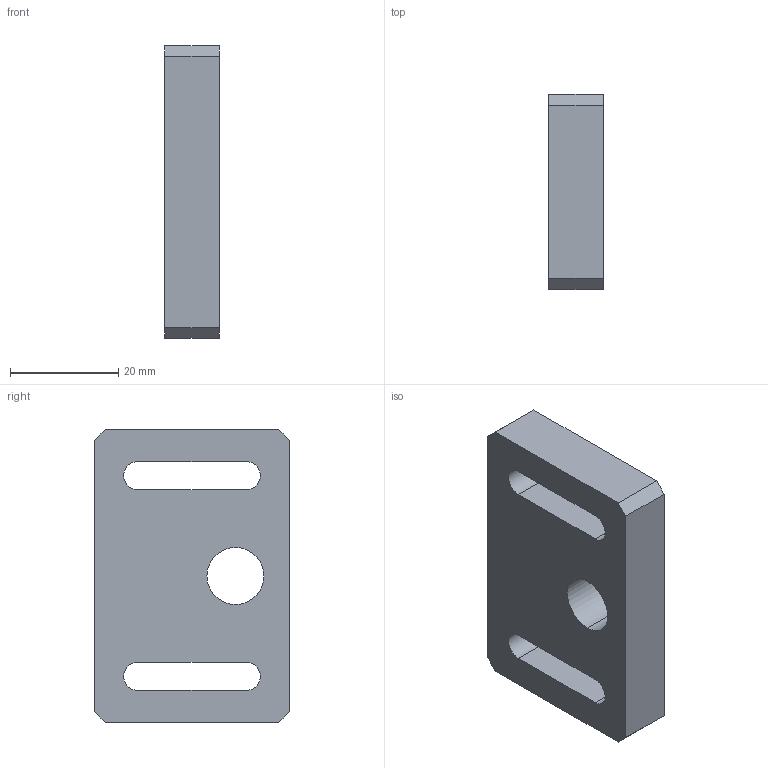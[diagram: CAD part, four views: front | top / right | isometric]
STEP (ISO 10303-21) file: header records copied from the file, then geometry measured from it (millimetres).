
FILE_DESCRIPTION (( 'STEP AP214' ), '1' );
FILE_NAME ('AGZ061.04.02_V1惰轮调节板.STEP', '2021-09-23T07:25:19', ( '微软中国' ), ( 'Microsoft' ), 'SwSTEP 2.0', 'SolidWorks 2017', '' );
FILE_SCHEMA (( 'AUTOMOTIVE_DESIGN' ));
Length unit declared in the file: millimetre
Products named in the file (1): AGZ061.04.02_V1嗉謫覃誹啣
Bounding box: 10 x 36 x 54 mm (x, y, z)
Volume: 15989.4 mm3; surface area: 6407.6 mm2
Topology: 1 solids, 1 shells, 20 faces, 54 edges, 36 vertices
Faces by surface type: plane 14, cylinder 6
Entity records: 676 total; most frequent: CARTESIAN_POINT 111, ORIENTED_EDGE 108, DIRECTION 108, EDGE_CURVE 54, LINE 42, VECTOR 42, VERTEX_POINT 36, AXIS2_PLACEMENT_3D 33
